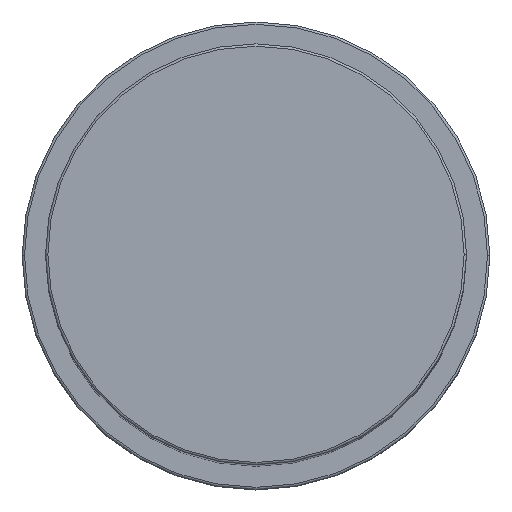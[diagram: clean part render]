
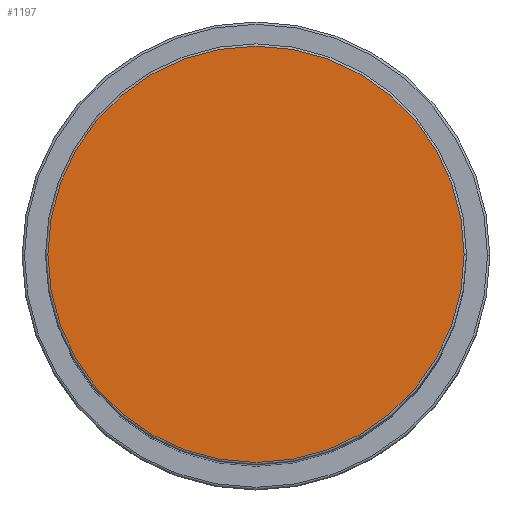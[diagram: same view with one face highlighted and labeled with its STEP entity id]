
A CAD part, top view. The second image highlights one B-rep face of the part: STEP entity #1197.
In plain terms, the highlighted planar face has unit normal (0, 0, 1).
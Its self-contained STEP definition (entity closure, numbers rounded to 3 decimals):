
#34 = AXIS2_PLACEMENT_3D ( 'NONE', #298, #1285, #125 ) ;
#125 = DIRECTION ( 'NONE',  ( 1., 0., 0. ) ) ;
#282 = DIRECTION ( 'NONE',  ( 0., 0., 1. ) ) ;
#289 = DIRECTION ( 'NONE',  ( 1., 0., 0. ) ) ;
#298 = CARTESIAN_POINT ( 'NONE',  ( 0., 0., 204. ) ) ;
#344 = ORIENTED_EDGE ( 'NONE', *, *, #783, .T. ) ;
#370 = CARTESIAN_POINT ( 'NONE',  ( -44.5, 0., 204. ) ) ;
#394 = PLANE ( 'NONE',  #1551 ) ;
#412 = DIRECTION ( 'NONE',  ( 1., 0., 0. ) ) ;
#462 = VERTEX_POINT ( 'NONE', #482 ) ;
#482 = CARTESIAN_POINT ( 'NONE',  ( 44.5, 0., 204. ) ) ;
#503 = VERTEX_POINT ( 'NONE', #370 ) ;
#783 = EDGE_CURVE ( 'NONE', #462, #503, #1474, .T. ) ;
#839 = FACE_OUTER_BOUND ( 'NONE', #1669, .T. ) ;
#956 = AXIS2_PLACEMENT_3D ( 'NONE', #976, #1530, #289 ) ;
#976 = CARTESIAN_POINT ( 'NONE',  ( 0., 0., 204. ) ) ;
#1197 = ADVANCED_FACE ( 'NONE', ( #839 ), #394, .T. ) ;
#1246 = EDGE_CURVE ( 'NONE', #503, #462, #1293, .T. ) ;
#1285 = DIRECTION ( 'NONE',  ( 0., 0., 1. ) ) ;
#1293 = CIRCLE ( 'NONE', #956, 44.5 ) ;
#1393 = CARTESIAN_POINT ( 'NONE',  ( 0., 0., 204. ) ) ;
#1474 = CIRCLE ( 'NONE', #34, 44.5 ) ;
#1530 = DIRECTION ( 'NONE',  ( 0., 0., 1. ) ) ;
#1551 = AXIS2_PLACEMENT_3D ( 'NONE', #1393, #282, #412 ) ;
#1669 = EDGE_LOOP ( 'NONE', ( #344, #1805 ) ) ;
#1805 = ORIENTED_EDGE ( 'NONE', *, *, #1246, .T. ) ;
